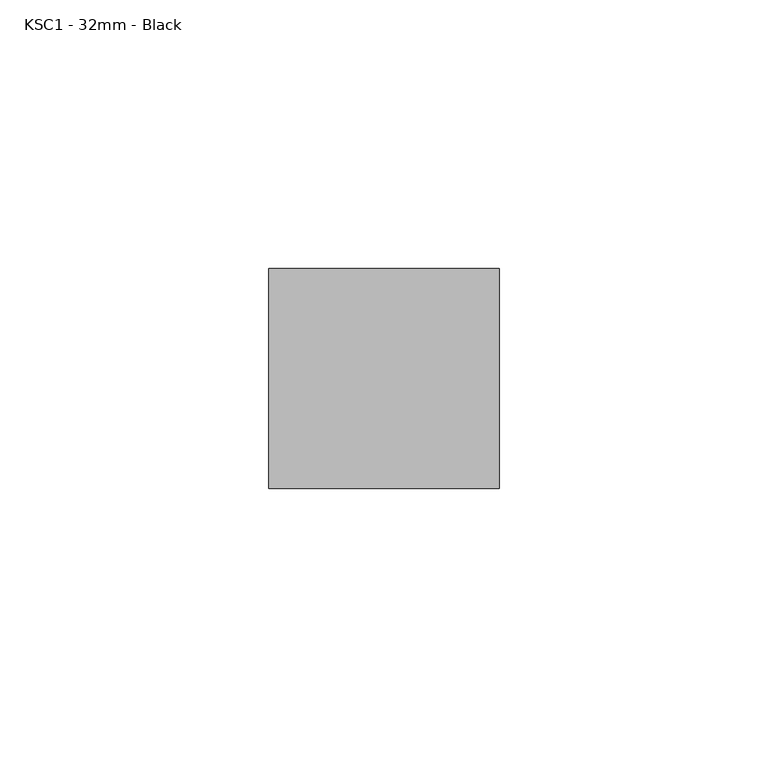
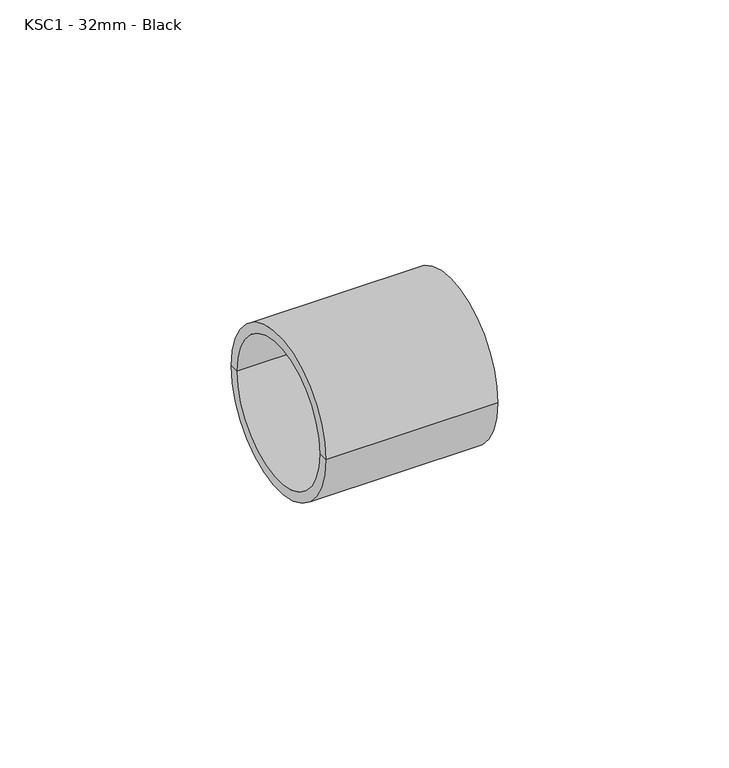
"""IFC4 building model written with IfcOpenShell, lengths in millimetres: pipe fitting geometry, MarleyPlumbingAndDrainage_PipeFitting_StraightCoupling : KSC1 - 32mm - Black."""

from ifc_helpers import new_model, si_unit, frame, origin, place, context, project, spatial, polyline, circle_curve, source, transform, mapped, element, save
from ifc_brep_helpers import plane_surface, cylinder_surface, revolved_surface, advanced_brep


def ksc1_32mm_black_cfbb3ff1(model_context):
    return source(origin(), model_context, "Body", "AdvancedBrep", [
        advanced_brep(
        [(-36.3253818, -18.0, 0.0), (-36.3253818, 18.0, 0.0), (-36.3253818, 20.5, 0.0), (-36.3253818, -20.5, 0.0), (-16.3253818, -18.0, 0.0), (-16.3253818, 18.0, 0.0), (-16.3253818, 0.0, 0.0), (-13.3253818, -18.0, 0.0), (-13.3253818, 18.0, 0.0), (-13.3253818, 0.0, 0.0), (6.6746182, -18.0, 0.0), (6.6746182, 18.0, 0.0), (6.6746182, -20.5, 0.0), (6.6746182, 20.5, 0.0)],
        [
            (0, 1, circle_curve(frame((-36.3253818, 0.0, 0.0), z_axis=(1.0, 0.0, 0.0), x_axis=(0.0, 1.0, 0.0)), 18.0)),
            (1, 2),
            (2, 3, circle_curve(frame((-36.3253818, 0.0, 0.0), z_axis=(-1.0, 0.0, 0.0), x_axis=(0.0, 1.0, 0.0)), 20.5)),
            (3, 0),
            (1, 0, circle_curve(frame((-36.3253818, 0.0, 0.0), z_axis=(1.0, 0.0, 0.0), x_axis=(0.0, 1.0, 0.0)), 18.0)),
            (3, 2, circle_curve(frame((-36.3253818, 0.0, 0.0), z_axis=(-1.0, 0.0, 0.0), x_axis=(0.0, 1.0, 0.0)), 20.5)),
            (4, 5, circle_curve(frame((-16.3253818, 0.0, 0.0), z_axis=(1.0, 0.0, 0.0), x_axis=(0.0, 1.0, 0.0)), 18.0)),
            (5, 1),
            (0, 4),
            (5, 4, circle_curve(frame((-16.3253818, 0.0, 0.0), z_axis=(1.0, 0.0, 0.0), x_axis=(0.0, 1.0, 0.0)), 18.0)),
            (6, 5),
            (4, 6),
            (7, 8, circle_curve(frame((-13.3253818, 0.0, 0.0), z_axis=(1.0, 0.0, 0.0), x_axis=(0.0, 1.0, 0.0)), 18.0)),
            (8, 9),
            (9, 7),
            (8, 7, circle_curve(frame((-13.3253818, 0.0, 0.0), z_axis=(1.0, 0.0, 0.0), x_axis=(0.0, 1.0, 0.0)), 18.0)),
            (10, 11, circle_curve(frame((6.6746182, 0.0, 0.0), z_axis=(1.0, 0.0, 0.0), x_axis=(0.0, 1.0, 0.0)), 18.0)),
            (11, 8),
            (7, 10),
            (11, 10, circle_curve(frame((6.6746182, 0.0, 0.0), z_axis=(1.0, 0.0, 0.0), x_axis=(0.0, 1.0, 0.0)), 18.0)),
            (12, 13, circle_curve(frame((6.6746182, 0.0, 0.0), z_axis=(1.0, 0.0, 0.0), x_axis=(0.0, 1.0, 0.0)), 20.5)),
            (13, 11),
            (10, 12),
            (13, 12, circle_curve(frame((6.6746182, 0.0, 0.0), z_axis=(1.0, 0.0, 0.0), x_axis=(0.0, 1.0, 0.0)), 20.5)),
            (2, 13),
            (12, 3),
        ],
        [
            plane_surface(frame((-36.3253818, 0.0, 0.0), z_axis=(-1.0, 0.0, 0.0), x_axis=(0.0, 1.0, 0.0))),
            revolved_surface(polyline([(-36.32538180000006, 18.0, 0.0), (-16.32538180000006, 18.0, 0.0)]), (1998.5, 0.0, 0.0), (-1.0, 0.0, 0.0)),
            plane_surface(frame((-16.3253818, 0.0, 0.0), z_axis=(-1.0, 0.0, 0.0), x_axis=(0.0, 1.0, 0.0))),
            plane_surface(frame((-13.3253818, 0.0, 0.0), z_axis=(1.0, 0.0, 0.0), x_axis=(0.0, 1.0, 0.0))),
            revolved_surface(polyline([(-13.32538180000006, 18.0, 0.0), (6.674618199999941, 18.0, 0.0)]), (1998.5, 0.0, 0.0), (-1.0, 0.0, 0.0)),
            plane_surface(frame((6.6746182, 0.0, 0.0), z_axis=(1.0, 0.0, 0.0), x_axis=(0.0, 1.0, 0.0))),
            cylinder_surface(frame((1998.5, 0.0, 0.0), z_axis=(-1.0, 0.0, 0.0), x_axis=(0.0, 1.0, 0.0)), 20.5),
        ],
        [
            (0, [[1, 2, 3, 4]]),
            (0, [[5, -4, 6, -2]]),
            (1, [[7, 8, -1, 9]]),
            (1, [[10, -9, -5, -8]]),
            (2, [[11, -7, 12]]),
            (2, [[-12, -10, -11]]),
            (3, [[13, 14, 15]]),
            (3, [[16, -15, -14]]),
            (4, [[17, 18, -13, 19]]),
            (4, [[20, -19, -16, -18]]),
            (5, [[21, 22, -17, 23]]),
            (5, [[24, -23, -20, -22]]),
            (6, [[-3, 25, -21, 26]]),
            (6, [[-6, -26, -24, -25]]),
        ],
    ),
    ])


if __name__ == "__main__":
    model = new_model("IFC4")
    model_context = context("Model", 3, world=origin())
    ifc_project = project(units=[si_unit("LENGTHUNIT", "METRE", prefix="MILLI")], contexts=[model_context])
    site = spatial("IfcSite", under=ifc_project)
    building = spatial("IfcBuilding", under=site)
    placement = place(None, origin())
    ksc1_32mm_black_shape = ksc1_32mm_black_cfbb3ff1(model_context)
    element("IfcPipeFitting", 1, ObjectType="MarleyPlumbingAndDrainage_PipeFitting_StraightCoupling : KSC1 - 32mm - Black", at=placement, inside=building, context=model_context, shape_type="MappedRepresentation", body=[
        mapped(ksc1_32mm_black_shape, transform((0.0, 0.0, 0.0), x_axis=(1.0, 0.0, 0.0), y_axis=(0.0, 1.0, 0.0), z_axis=(0.0, 0.0, 1.0))),
    ])
    save(model, "model.ifc")
